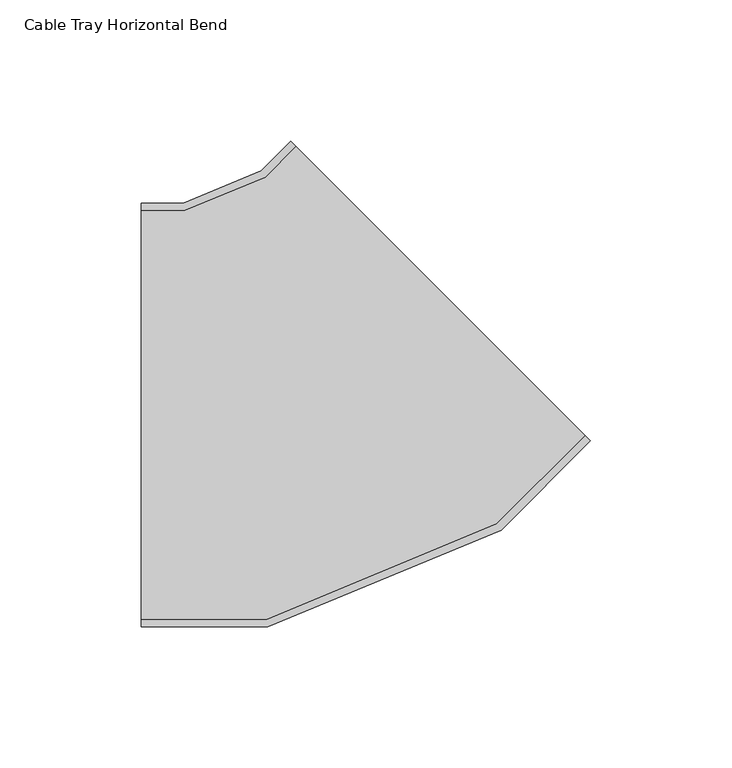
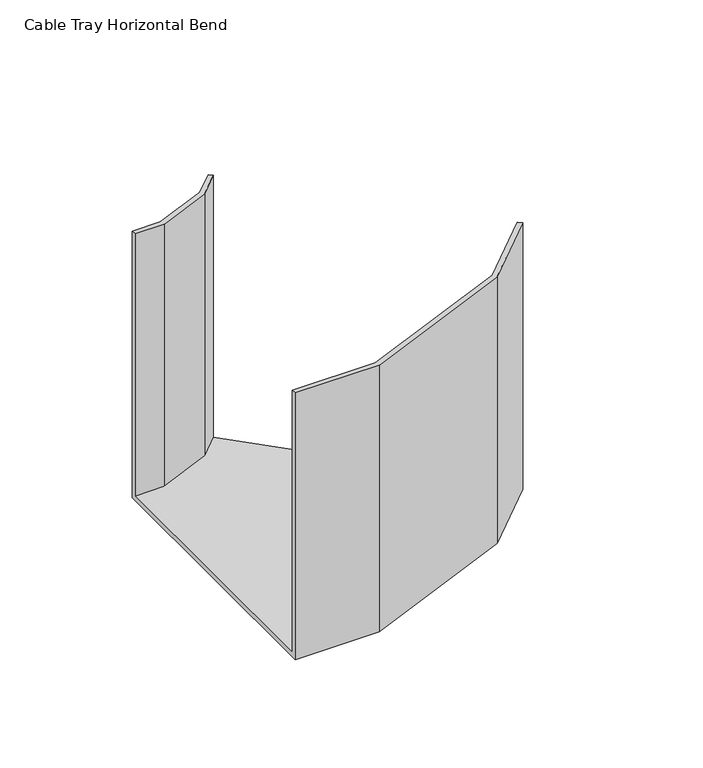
"""IFC4 building model written with IfcOpenShell, lengths in millimetres: cable carrier fitting geometry, Cable Tray Horizontal Bend : ELEC_ELV_TKG_N2402."""

from ifc_helpers import new_model, si_unit, origin, place, context, project, spatial, faceted_brep, source, transform, mapped, element, save


def cable_tray_horizontal_bend_59db2054(model_context):
    return source(origin(), model_context, "Body", "Brep", [
        faceted_brep([(-62.1320344, -75.0, -75.0), (-62.1320344, -75.0, 75.0), (-62.1320344, -72.46, 75.0), (-62.1320344, -72.46, -72.46), (-62.1320344, 72.46, -72.46), (-62.1320344, 72.46, 75.0), (-62.1320344, 75.0, 75.0), (-62.1320344, 75.0, -75.0), (96.9669914, -9.0990258, -75.0), (-9.0990258, 96.9669914, -75.0), (-9.0990258, 96.9669914, 75.0), (-7.3029746, 95.1709402, 75.0), (-7.3029746, 95.1709402, -72.46), (95.1709402, -7.3029745, -72.46), (95.1709402, -7.3029745, 75.0), (96.9669914, -9.0990258, 75.0), (-17.3767517, -75.0, -75.0), (-17.3767517, -75.0, 75.0), (65.3202275, -40.7457896, 75.0), (63.8814331, -38.5924816, 75.0), (-17.8819891, -72.46, 75.0), (-17.8819891, -72.46, -72.46), (63.8814331, -38.5924816, -72.46), (-18.2091526, 84.2647621, -72.46), (-46.7083694, 72.46, -72.46), (-46.7083694, 72.46, 75.0), (-18.2091526, 84.2647621, 75.0), (-19.6479471, 86.4180701, 75.0), (-47.2136068, 75.0, 75.0), (-47.2136068, 75.0, -75.0), (-19.6479471, 86.4180701, -75.0), (65.3202275, -40.7457896, -75.0)], [[[0, 1, 2, 3, 4, 5, 6, 7]], [[8, 9, 10, 11, 12, 13, 14, 15]], [[1, 0, 16, 17]], [[2, 1, 17, 18, 15, 14, 19, 20]], [[3, 2, 20, 21]], [[4, 3, 21, 22, 13, 12, 23, 24]], [[5, 4, 24, 25]], [[6, 5, 25, 26, 11, 10, 27, 28]], [[7, 6, 28, 29]], [[0, 7, 29, 30, 9, 8, 31, 16]], [[17, 16, 31, 18]], [[21, 20, 19, 22]], [[25, 24, 23, 26]], [[29, 28, 27, 30]], [[18, 31, 8, 15]], [[22, 19, 14, 13]], [[26, 23, 12, 11]], [[30, 27, 10, 9]]]),
    ])


if __name__ == "__main__":
    model = new_model("IFC4")
    model_context = context("Model", 3, world=origin())
    ifc_project = project(units=[si_unit("LENGTHUNIT", "METRE", prefix="MILLI")], contexts=[model_context])
    site = spatial("IfcSite", under=ifc_project)
    building = spatial("IfcBuilding", under=site)
    placement = place(None, origin())
    cable_tray_horizontal_bend_shape = cable_tray_horizontal_bend_59db2054(model_context)
    element("IfcCableCarrierFitting", 1, ObjectType="Cable Tray Horizontal Bend : ELEC_ELV_TKG_N2402", at=placement, inside=building, context=model_context, shape_type="MappedRepresentation", body=[
        mapped(cable_tray_horizontal_bend_shape, transform((0.0, 0.0, 0.0), x_axis=(1.0, 0.0, 0.0), y_axis=(0.0, 1.0, 0.0), z_axis=(0.0, 0.0, 1.0))),
    ])
    save(model, "model.ifc")
